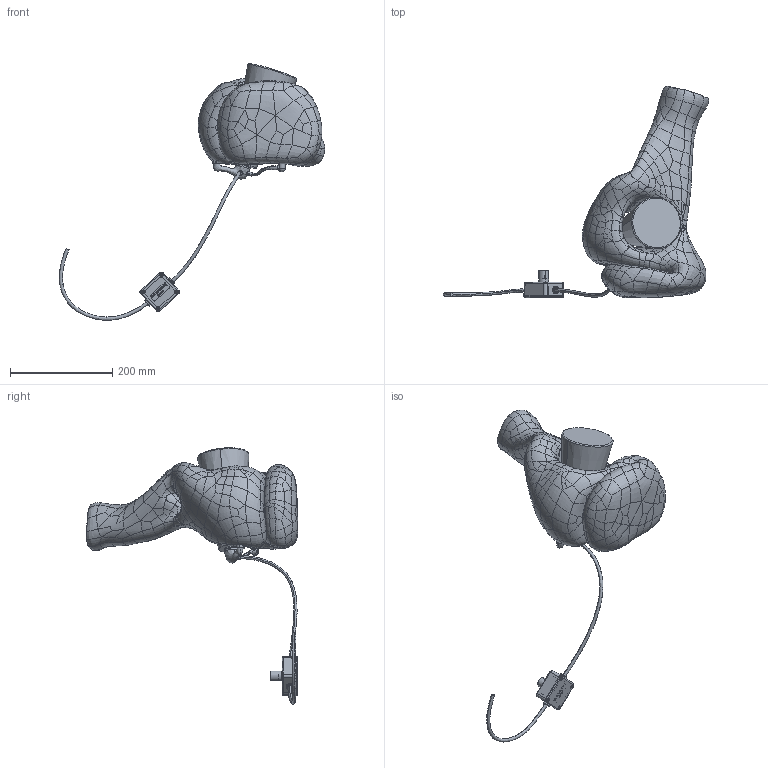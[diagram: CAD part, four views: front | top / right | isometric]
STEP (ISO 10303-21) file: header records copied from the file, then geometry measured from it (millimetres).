
FILE_DESCRIPTION (( 'STEP AP214' ), '1' );
FILE_NAME ('Anna Karlin - Squidge Table Lamp.STEP', '2024-10-07T15:02:26', ( '' ), ( '' ), 'SwSTEP 2.0', 'SolidWorks 2023', '' );
FILE_SCHEMA (( 'AUTOMOTIVE_DESIGN' ));
Length unit declared in the file: inch
Products named in the file (12): 1550Q BOX; Anna Karlin - Squidge Table Lamp; EAR.GLASS; 1550Q LID; DIK102; SP.GLB.CLLR-2_Long; Assem3^Squidge Table Lamp; Glass Squidge Final - Left - HR_Table Lamp Version; Cord - WIBC183POBG^Squidge Table Lamp; Squidge Table Armature 6; Small Dimmer Box; BG450
Assembly tree (12 placements, depth 3):
  Anna Karlin - Squidge Table Lamp
    Assem3^Squidge Table Lamp
      EAR.GLASS
      SP.GLB.CLLR-2_Long
      Glass Squidge Final - Left - HR_Table Lamp Version
    Squidge Table Armature 6
    Cord - WIBC183POBG^Squidge Table Lamp
    Small Dimmer Box
      1550Q BOX
      1550Q LID
      BG450  x2
      DIK102
Bounding box: 518 x 413.49 x 500.56 mm (x, y, z)
Volume: 5485448.3 mm3; surface area: 443184.1 mm2
Topology: 11 solids, 11 shells, 1747 faces, 4194 edges, 2507 vertices
Faces by surface type: bspline 1150, plane 290, cylinder 199, cone 84, torus 22, sphere 2
Entity records: 214584 total; most frequent: CARTESIAN_POINT 183752, ORIENTED_EDGE 8220, EDGE_CURVE 4110, DIRECTION 2908, B_SPLINE_CURVE_WITH_KNOTS 2680, VERTEX_POINT 2452, EDGE_LOOP 1786, ADVANCED_FACE 1717
